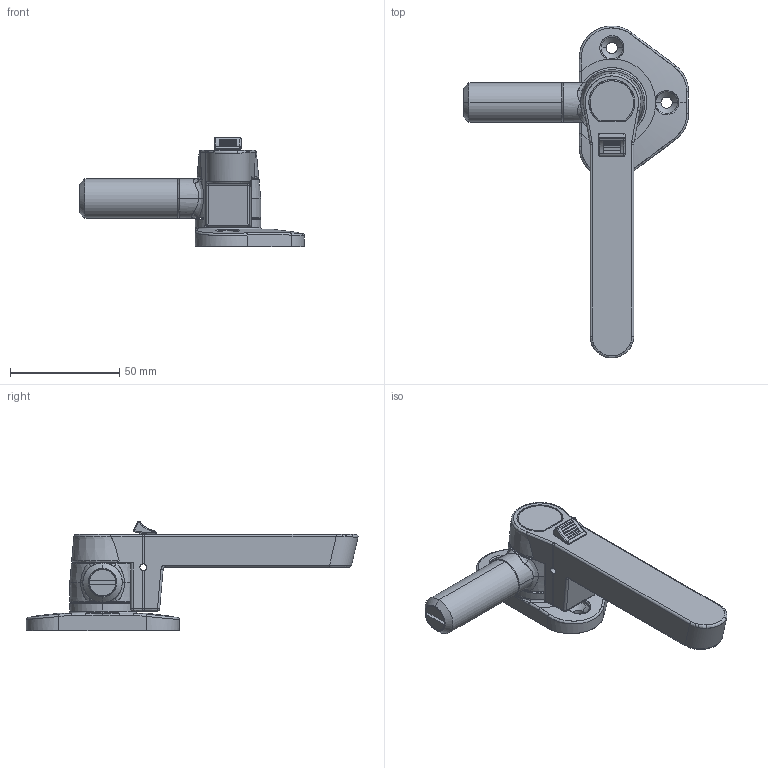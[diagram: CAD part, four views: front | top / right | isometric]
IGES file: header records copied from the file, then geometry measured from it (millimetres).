
Start section: SolidWorks IGES file using analytic representation for surfaces
Bounding box: 102.8 x 151.72 x 50 mm (x, y, z)
Surface area: 29114 mm2 (no closed solid volume)
Topology: 0 solids, 0 shells, 322 faces, 3758 edges, 3745 vertices
Faces by surface type: bspline 161, revolution 161
